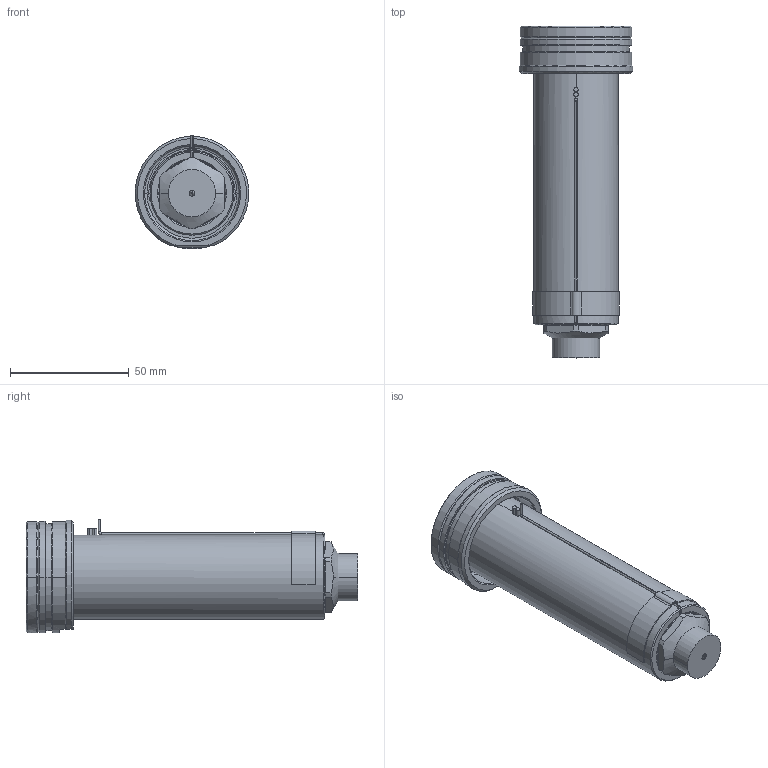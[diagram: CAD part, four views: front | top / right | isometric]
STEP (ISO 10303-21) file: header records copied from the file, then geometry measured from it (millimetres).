
FILE_DESCRIPTION((''),'2;1');
FILE_NAME('EO16_PG-FB_STD_120_SW','2024-02-19T11:41:13',('sundharh'),(''),'CREO PARAMETRIC BY PTC INC, 2023154','CREO PARAMETRIC BY PTC INC, 2023154','');
FILE_SCHEMA(('CONFIG_CONTROL_DESIGN'));
Length unit declared in the file: millimetre
Products named in the file (1): EO16_PG-FB_STD_120_SW
Bounding box: 47.97 x 140 x 48 mm (x, y, z)
Volume: 118118.3 mm3; surface area: 32353.3 mm2
Topology: 1 solids, 1 shells, 205 faces, 538 edges, 331 vertices
Faces by surface type: cylinder 81, plane 59, cone 41, torus 14, bspline 7, sphere 3
Entity records: 7443 total; most frequent: CARTESIAN_POINT 2293, DIRECTION 1139, ORIENTED_EDGE 1060, EDGE_CURVE 530, AXIS2_PLACEMENT_3D 475, VERTEX_POINT 331, CIRCLE 277, EDGE_LOOP 223
